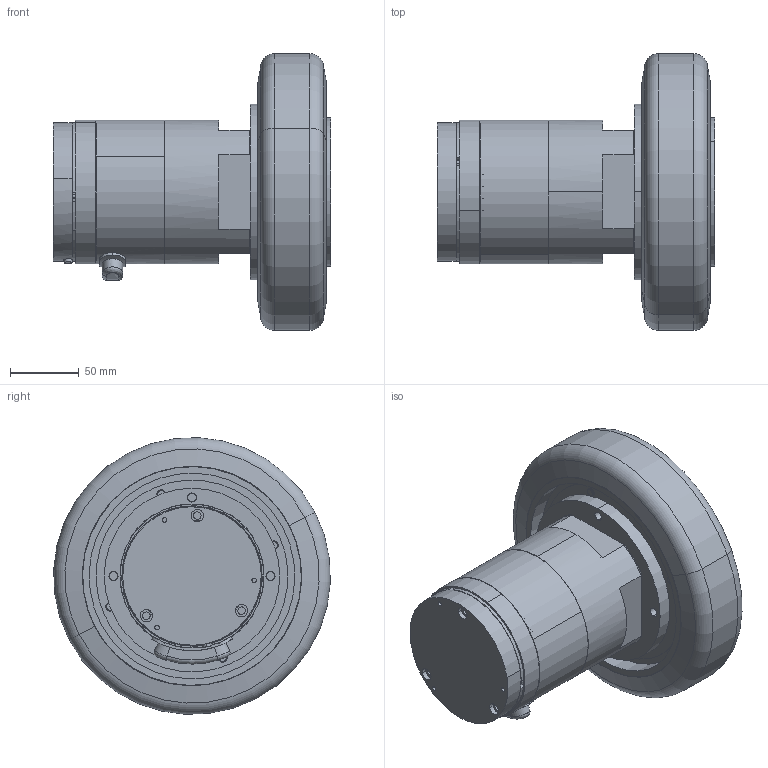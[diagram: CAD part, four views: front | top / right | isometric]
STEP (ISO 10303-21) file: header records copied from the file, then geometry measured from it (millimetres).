
FILE_DESCRIPTION (( 'STEP AP203' ), '1' );
FILE_NAME ('IMR-500_Gen2_V3_defeature_08.10.24_2.STEP', '2024-10-08T12:16:39', ( '' ), ( '' ), 'SwSTEP 2.0', 'SolidWorks 2022', '' );
FILE_SCHEMA (( 'CONFIG_CONTROL_DESIGN' ));
Products named in the file (1): IMR-500_Gen2_V3_defeature_08.10.24_2
Bounding box: 202.07 x 201.79 x 201.79 mm (x, y, z)
Volume: 2736590.9 mm3; surface area: 230297.2 mm2
Topology: 1 solids, 17 shells, 637 faces, 1582 edges, 999 vertices
Faces by surface type: cylinder 274, plane 205, torus 62, cone 54, bspline 42
Entity records: 41840 total; most frequent: CARTESIAN_POINT 26379, DIRECTION 3426, ORIENTED_EDGE 3124, EDGE_CURVE 1562, AXIS2_PLACEMENT_3D 1435, VERTEX_POINT 999, CIRCLE 839, EDGE_LOOP 727
